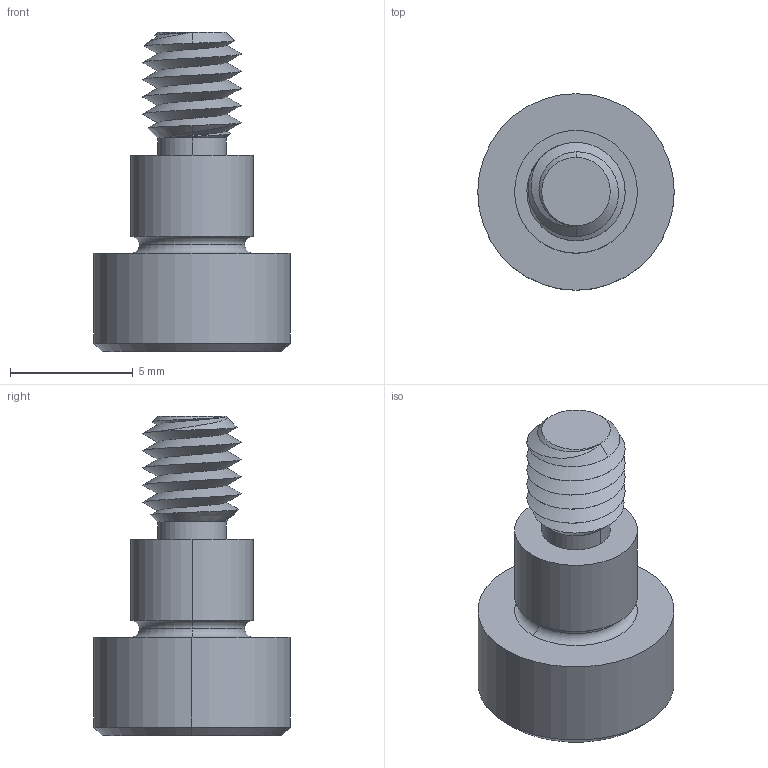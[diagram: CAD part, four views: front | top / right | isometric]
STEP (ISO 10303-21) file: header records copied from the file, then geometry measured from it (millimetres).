
FILE_DESCRIPTION (( 'STEP AP203' ), '1' );
FILE_NAME ('P0130.050-004-B2.step', '2021-11-09T21:10:41', ( '' ), ( '' ), 'SwSTEP 2.0', 'SolidWorks 2019', '' );
FILE_SCHEMA (( 'CONFIG_CONTROL_DESIGN' ));
Length unit declared in the file: millimetre
Products named in the file (1): P0130.050-004-B2
Bounding box: 8 x 8 x 13 mm (x, y, z)
Volume: 302.8 mm3; surface area: 378.3 mm2
Topology: 1 solids, 1 shells, 53 faces, 121 edges, 71 vertices
Faces by surface type: cylinder 16, plane 16, cone 15, torus 4, bspline 2
Entity records: 2151 total; most frequent: CARTESIAN_POINT 968, ORIENTED_EDGE 238, DIRECTION 226, EDGE_CURVE 119, AXIS2_PLACEMENT_3D 92, VERTEX_POINT 71, EDGE_LOOP 56, FACE_OUTER_BOUND 53
